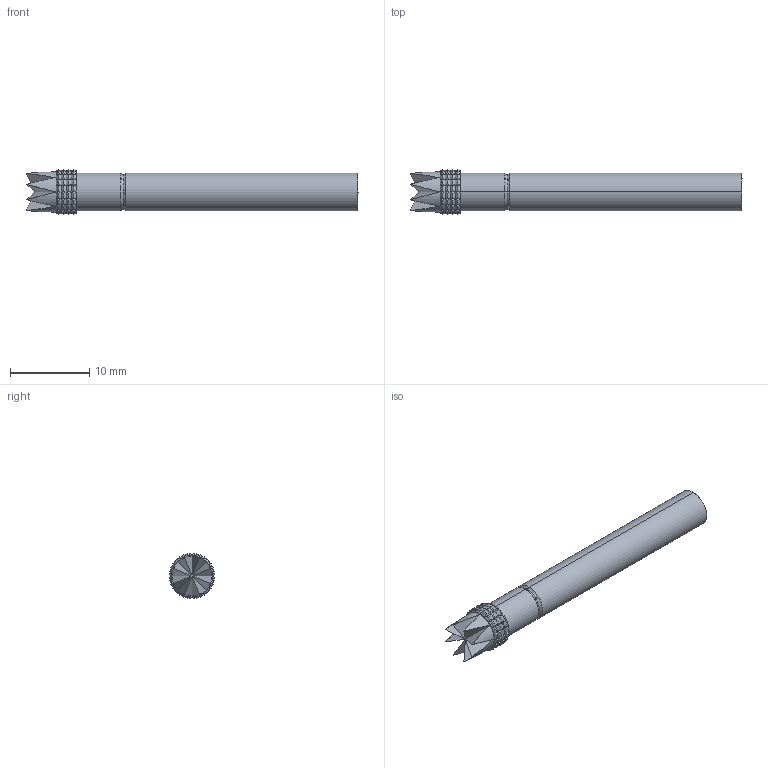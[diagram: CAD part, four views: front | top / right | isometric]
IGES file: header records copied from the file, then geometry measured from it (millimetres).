
Start section: SolidWorks IGES file using analytic representation for surfaces
Global section: file name: O:\PYLON\IGES FILES\P4301\P4301-1Z FULL.IGS; native system: SolidWorks 2015; preprocessor: SolidWorks 2015; author: kgolden; date: 171023.105100; units: inch
Bounding box: 41.91 x 5.7 x 5.7 mm (x, y, z)
Surface area: 1413.8 mm2 (no closed solid volume)
Topology: 0 solids, 0 shells, 413 faces, 2276 edges, 2276 vertices
Faces by surface type: revolution 211, bspline 202
